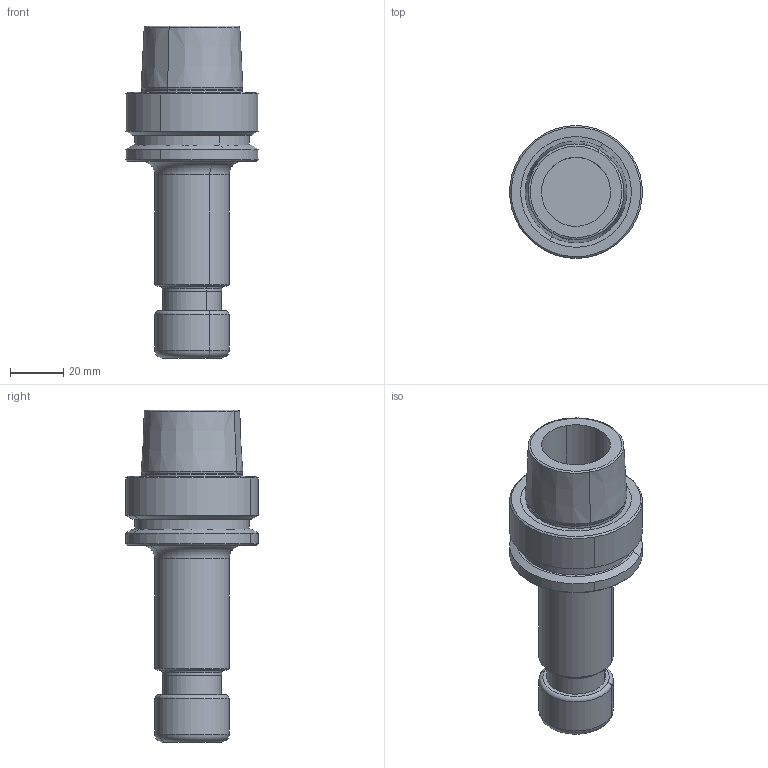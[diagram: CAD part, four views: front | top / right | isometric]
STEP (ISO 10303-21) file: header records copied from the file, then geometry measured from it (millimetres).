
FILE_DESCRIPTION(('CATIA V5 STEP','CAx-IF Rec.Pracs.--- Model Styling and Organization---1.2---2011-12-15'),'2;1');
FILE_NAME('\\nas01\drv1\utils\eitdev\rte\eit\transmagicconvert\db\out\635925124950872830\4561209-L-B.stp','2016-03-02T08:48:26+00:00',('none'),('none'),'CATIA Version 5 Release 21 SP 5 (IN-10)','CATIA V5 STEP AP214','none');
FILE_SCHEMA(('AUTOMOTIVE_DESIGN { 1 0 10303 214 1 1 1 1 }'));
Length unit declared in the file: millimetre
Products named in the file (1): HSK A 50 ER16X100
Bounding box: 49.83 x 50 x 125 mm (x, y, z)
Volume: 95236.3 mm3; surface area: 22182.8 mm2
Topology: 1 solids, 1 shells, 68 faces, 150 edges, 91 vertices
Faces by surface type: cylinder 24, cone 20, torus 14, plane 10
Entity records: 1812 total; most frequent: CARTESIAN_POINT 435, ORIENTED_EDGE 296, DIRECTION 222, EDGE_CURVE 148, AXIS2_PLACEMENT_3D 138, CIRCLE 96, VERTEX_POINT 91, EDGE_LOOP 77
